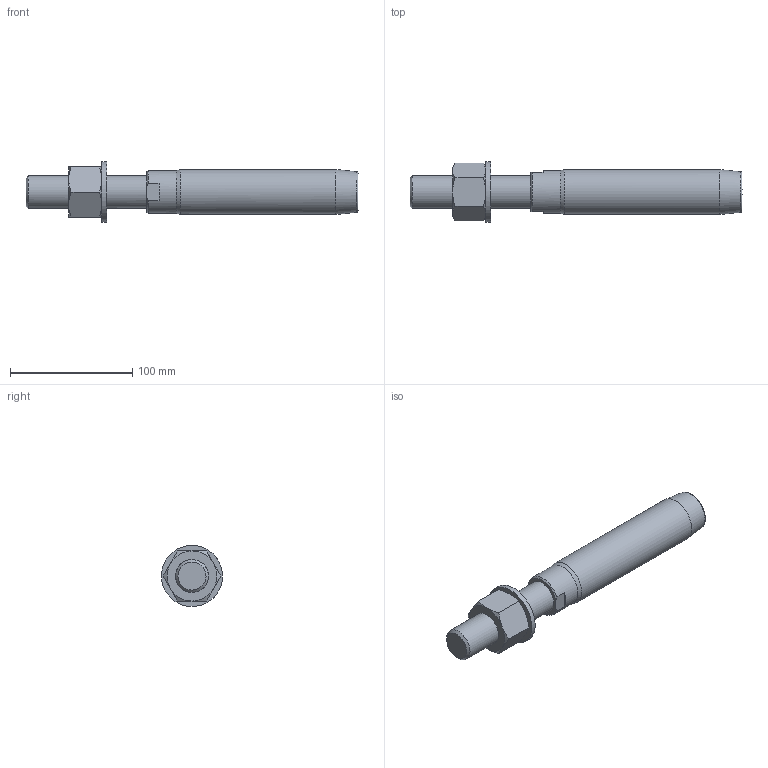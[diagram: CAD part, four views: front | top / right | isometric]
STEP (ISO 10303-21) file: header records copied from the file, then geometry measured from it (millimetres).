
FILE_DESCRIPTION(/* description */ (''),/* implementation_level */ '2;1');
FILE_NAME(/* name */ 'FLT 16_1,4462',/* time_stamp */ '2023-05-23T15:58:04+02:00',/* author */ (''),/* organization */ (''),/* preprocessor_version */ 'ST-DEVELOPER v16.5',/* originating_system */ 'Rhino 7.22',/* authorisation */ '');
FILE_SCHEMA (('CONFIG_CONTROL_DESIGN'));
Length unit declared in the file: millimetre
Products named in the file (1): Document
Bounding box: 272 x 49.97 x 49.97 mm (x, y, z)
Volume: 268046.9 mm3; surface area: 41109 mm2
Topology: 3 solids, 3 shells, 43 faces, 103 edges, 67 vertices
Faces by surface type: bspline 20, plane 17, cylinder 6
Full cylindrical faces by diameter (mm): 23.752 x1, 27 x1, 28 x1, 35 x1, 36.8 x1, 50 x1
Entity records: 1586 total; most frequent: CARTESIAN_POINT 881, ORIENTED_EDGE 206, EDGE_CURVE 103, VERTEX_POINT 67, EDGE_LOOP 48, ADVANCED_FACE 43, FACE_OUTER_BOUND 43, DIRECTION 27
